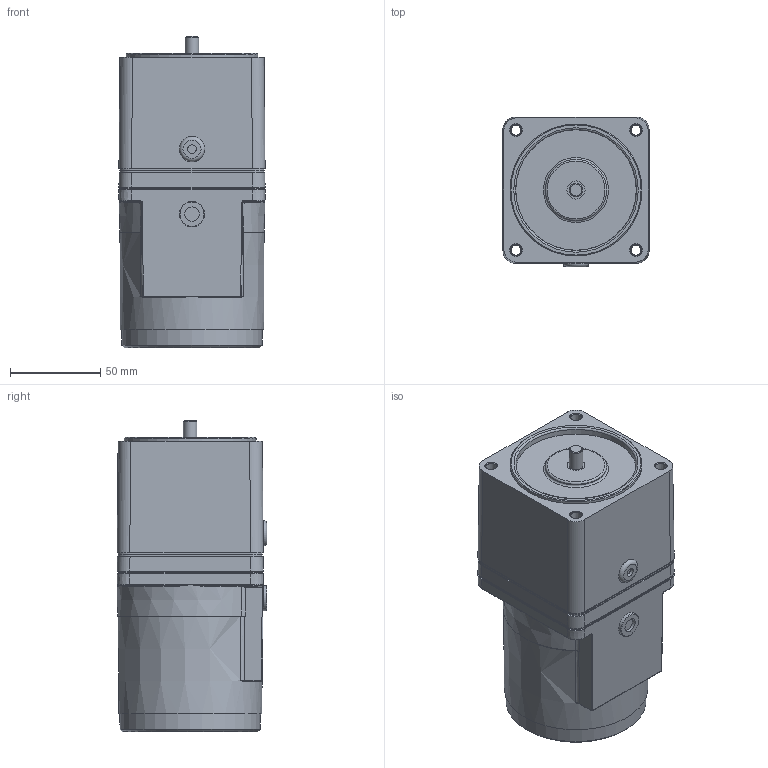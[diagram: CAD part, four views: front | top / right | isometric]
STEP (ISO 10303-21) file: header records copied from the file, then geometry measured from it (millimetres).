
FILE_DESCRIPTION (( 'STEP AP214' ), '1' );
FILE_NAME ('8CIDG¤±-25G.STEP', '2025-01-13T08:07:26', ( '' ), ( '' ), 'SwSTEP 2.0', 'SolidWorks 2024', '' );
FILE_SCHEMA (( 'AUTOMOTIVE_DESIGN' ));
Length unit declared in the file: millimetre
Products named in the file (1): 8CIDGㅁ-25G
Bounding box: 81 x 83 x 172.5 mm (x, y, z)
Volume: 894996 mm3; surface area: 77415.6 mm2
Topology: 1 solids, 2 shells, 255 faces, 544 edges, 333 vertices
Faces by surface type: plane 89, cone 52, cylinder 41, torus 41, bspline 30, sphere 2
Full cylindrical faces by diameter (mm): 4.8 x1, 5.5 x4, 7.49 x1, 8 x1, 10 x1, 14 x2, 34 x2, 73.1 x2
Entity records: 6926 total; most frequent: CARTESIAN_POINT 1994, DIRECTION 1007, ORIENTED_EDGE 870, EDGE_CURVE 435, AXIS2_PLACEMENT_3D 431, EDGE_LOOP 397, VERTEX_POINT 318, FACE_OUTER_BOUND 298
